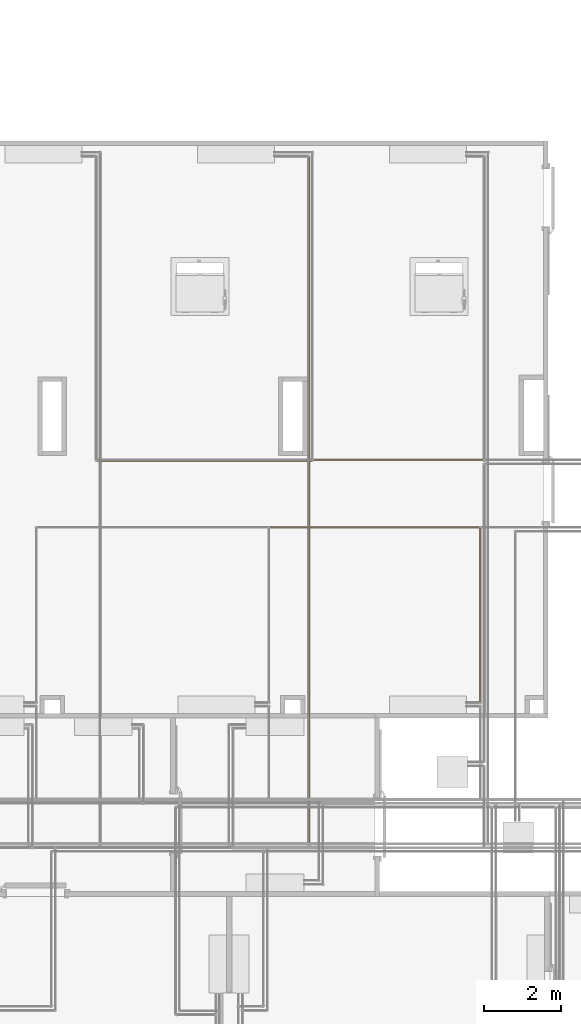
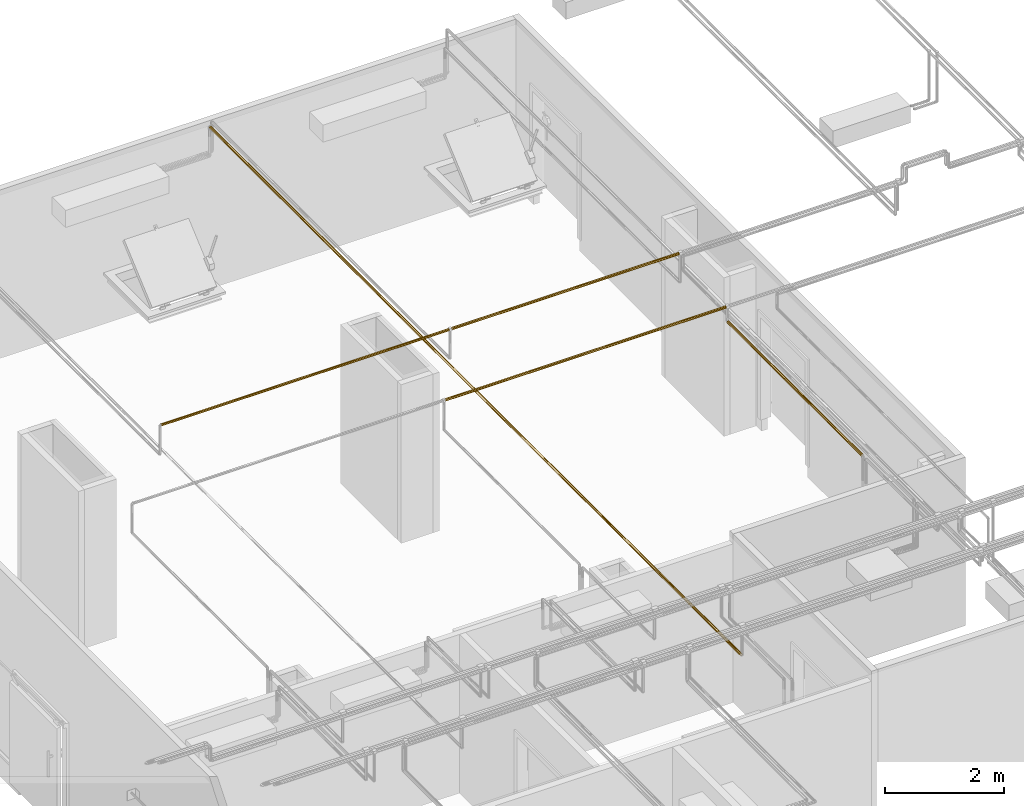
# One storey, part 117 of 652: 5 coverings.
"""IFC2X3 building model written with IfcOpenShell, lengths in millimetres."""

from ifc_helpers import new_model, entity, si_unit, converted_unit, direction, frame, origin, place, context, subcontext, project, spatial, faceted_brep, material, type_object, element, save


model = new_model("IFC2X3")

# Units and contexts
model_context = context("Model", 3, precision=0.01, world=frame((0.0, 0.0, 308426.39999999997)), true_north=direction((6.123233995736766e-17, 1.0)))
plan_context = context("Plan", 3, precision=0.01, world=frame((0.0, 0.0, 308426.39999999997)), true_north=direction((6.123233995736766e-17, 1.0)))
body_context = subcontext(model_context, "Body", "Model", "MODEL_VIEW")
ifc_project = project(units=[si_unit("LENGTHUNIT", "METRE", prefix="MILLI"), si_unit("AREAUNIT", "SQUARE_METRE"), si_unit("VOLUMEUNIT", "CUBIC_METRE"), converted_unit("PLANEANGLEUNIT", "DEGREE", entity("IfcPlaneAngleMeasure", 0.017453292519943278), si_unit("PLANEANGLEUNIT", "RADIAN"), dimensions=[0, 0, 0, 0, 0, 0, 0])], contexts=[model_context, plan_context])

# Site, building, storey
site_placement = place(None, origin())
site = spatial("IfcSite", under=ifc_project, at=site_placement, Name="Default", CompositionType="ELEMENT")
building_placement = place(site_placement, origin())
building = spatial("IfcBuilding", under=site, at=building_placement, CompositionType="ELEMENT")
storey_placement = place(building_placement, frame((0.0, 0.0, 1730.6999999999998)))
storey = spatial("IfcBuildingStorey", under=building, at=storey_placement, Name="EG_Produktion_FFB", CompositionType="ELEMENT", Elevation=1730.6999999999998)

# Coverings
ifc_material = material(Name="Dämmung - Armaflex-Schlauch")
covering_type = type_object("IfcCoveringType", Name="Rohrdämmung außen:Armaflex-Schlauch", PredefinedType="INSULATION")
covering_1_placement = place(storey_placement, frame((23668.556701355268, 69888.05472776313, 3873.0547277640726)))
element("IfcCovering", 1, at=covering_1_placement, inside=storey, type_object=covering_type, material=ifc_material, Name="Rohrdämmung außen:Armaflex-Schlauch", ObjectType="Rohrdämmung außen:Armaflex-Schlauch", PredefinedType="INSULATION", context=body_context, shape_type="Brep", body=[
    faceted_brep([(5569.4027954, 8.323873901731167, 9.744515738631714), (5569.4027954, 13.551972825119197, 6.345393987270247), (5569.4027954, 18.78007174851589, 2.946272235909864), (5569.4027954, 35.1104727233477, 2.946272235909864), (5569.4027954, 38.6393593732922, 5.923287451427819), (5569.4027954, 42.16824602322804, 8.900302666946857), (5569.4027954, 45.69713267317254, 11.877317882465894), (5569.4027954, 49.22601932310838, 14.854333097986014), (5569.4027954, 50.76064577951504, 20.899802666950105), (5569.4027954, 52.29527223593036, 26.94527223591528), (5569.4027954, 50.62815174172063, 30.97005714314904), (5569.4027954, 48.58285068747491, 35.90785068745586), (5569.4027954, 46.72663991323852, 40.38913991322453), (5569.4027954, 44.8704291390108, 44.87042913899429), (5569.4027954, 40.389139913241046, 46.726639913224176), (5569.4027954, 35.907850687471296, 48.58285068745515), (5569.4027954, 31.426561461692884, 50.439061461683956), (5569.4027954, 26.945272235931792, 52.29527223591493), (5569.4027954, 22.920487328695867, 50.628151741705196), (5569.4027954, 17.982693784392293, 48.58285068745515), (5569.4027954, 13.50140455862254, 46.726639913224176), (5569.4027954, 9.020115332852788, 44.87042913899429), (5569.4027954, 7.163904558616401, 40.38913991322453), (5569.4027954, 5.307693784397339, 35.90785068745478), (5569.4027954, 3.4514830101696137, 31.426561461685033), (5569.4027954, 1.5952722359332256, 26.94527223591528), (5569.4027954, 3.277422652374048, 22.64508311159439), (5569.4027954, 4.959573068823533, 18.344893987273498), (5569.402795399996, 6.641723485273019, 14.044704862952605), (1.5952722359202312, 31.335193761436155, 1.9782722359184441), (1.5952722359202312, 22.555350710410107, 1.9782722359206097), (1.5952722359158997, 18.800367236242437, 4.143565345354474), (1.5952722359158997, 15.045383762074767, 6.308858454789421), (1.5952722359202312, 7.535416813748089, 10.639444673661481), (1.5952722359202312, 4.5937563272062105, 18.714367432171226), (1.5952722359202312, 3.094514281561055, 22.829819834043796), (1.5952722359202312, 1.5952722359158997, 26.945272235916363), (1.5952722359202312, 3.2623927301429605, 30.97005714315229), (1.5952722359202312, 4.929513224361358, 34.99484205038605), (1.5952722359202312, 6.97481427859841, 39.93263559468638), (1.5952722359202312, 9.020115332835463, 44.87042913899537), (1.5952722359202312, 13.501404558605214, 46.72663991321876), (1.5952722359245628, 17.982693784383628, 48.58285068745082), (1.5952722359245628, 22.46398301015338, 50.439061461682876), (1.5952722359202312, 26.94527223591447, 52.295272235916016), (1.5952722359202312, 30.970057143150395, 50.628151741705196), (1.5952722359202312, 34.99484205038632, 48.96103124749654), (1.5952722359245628, 39.93263559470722, 46.91573019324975), (1.5952722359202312, 44.87042913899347, 44.87042913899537), (1.5952722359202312, 46.72663991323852, 40.389139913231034), (1.5952722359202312, 48.58285068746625, 35.9078506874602), (1.5952722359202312, 50.439061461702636, 31.42656146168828), (1.5952722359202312, 52.29527223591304, 26.945272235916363), (1.5952722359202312, 50.810236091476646, 22.868815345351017), (1.5952722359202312, 49.32519994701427, 18.792358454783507), (1.5952722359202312, 47.840163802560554, 14.715901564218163), (1.5952722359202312, 46.35512765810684, 10.639444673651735), (1.5952722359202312, 38.8451607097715, 6.308858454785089), (1.8823407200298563, 24.741973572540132, 1.691203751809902), (5568.391825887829, 22.807165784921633, 1.9353027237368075), (5568.051795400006, 26.945272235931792, 1.595272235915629), (1.9782722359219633, 26.94527223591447, 1.595272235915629), (1.8823407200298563, 29.148570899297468, 1.6912037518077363), (5568.391825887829, 31.083378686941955, 1.9353027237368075)], [[[0, 1, 2, 3, 4, 5, 6, 7, 8, 9, 10, 11, 12, 13, 14, 15, 16, 17, 18, 19, 20, 21, 22, 23, 24, 25, 26, 27, 28]], [[29, 30, 31, 32, 33, 34, 35, 36, 37, 38, 39, 40, 41, 42, 43, 44, 45, 46, 47, 48, 49, 50, 51, 52, 53, 54, 55, 56, 57]], [[34, 26, 35]], [[27, 26, 34, 28]], [[33, 1, 0]], [[2, 32, 31, 30]], [[2, 1, 32]], [[33, 32, 1]], [[25, 35, 26]], [[30, 58, 59]], [[25, 36, 35]], [[58, 60, 59]], [[60, 58, 61]], [[34, 33, 28]], [[2, 30, 59]], [[33, 0, 28]], [[62, 29, 63]], [[54, 7, 55]], [[61, 62, 60]], [[60, 62, 63]], [[6, 5, 56]], [[29, 3, 63]], [[9, 53, 52]], [[9, 8, 53]], [[57, 5, 4, 3]], [[8, 54, 53]], [[57, 3, 29]], [[5, 57, 56]], [[6, 55, 7]], [[7, 54, 8]], [[6, 56, 55]], [[50, 49, 48, 13, 12, 11, 10, 9, 52, 51]], [[13, 48, 47, 46, 45, 44, 17, 16, 15, 14]], [[42, 41, 40, 21, 20, 19, 18, 17, 44, 43]], [[21, 40, 39, 38, 37, 36, 25, 24, 23, 22]], [[60, 63, 3, 2, 59]], [[30, 29, 62, 61, 58]]]),
])
covering_2_placement = place(storey_placement, frame((29290.30724675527, 69886.46722776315, 3928.532772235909)))
element("IfcCovering", 2, at=covering_2_placement, inside=storey, type_object=covering_type, material=ifc_material, Name="Rohrdämmung außen:Armaflex-Schlauch", ObjectType="Rohrdämmung außen:Armaflex-Schlauch", PredefinedType="INSULATION", context=body_context, shape_type="Brep", body=[
    faceted_brep([(0.0, 47.5804611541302, -47.58046115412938), (0.0, 42.81853892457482, -49.552913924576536), (0.0, 38.05661669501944, -51.52536669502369), (0.0, 33.29469446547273, -53.49781946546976), (0.0, 28.532772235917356, -55.470272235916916), (0.0, 22.95564488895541, -53.16015044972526), (0.0, 19.008927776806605, -51.52536669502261), (0.0, 14.247005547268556, -49.552913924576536), (0.0, 9.485083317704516, -47.58046115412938), (0.0, 7.512630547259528, -42.818538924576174), (0.0, 5.540177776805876, -38.05661669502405), (0.0, 3.567725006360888, -33.29469446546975), (0.0, 1.5952722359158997, -28.532772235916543), (0.0, 3.905394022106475, -22.95564488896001), (0.0, 5.540177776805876, -19.008927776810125), (0.0, 7.512630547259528, -14.247005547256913), (0.0, 9.485083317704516, -9.485083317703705), (0.0, 14.247005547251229, -7.512630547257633), (0.0, 19.008927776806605, -5.540177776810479), (0.0, 23.77085000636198, -3.567725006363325), (0.0, 28.532772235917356, -1.5952722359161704), (0.0, 34.10989958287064, -3.9053940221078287), (0.0, 38.05661669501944, -5.540177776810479), (0.0, 42.81853892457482, -7.51263054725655), (0.0, 47.5804611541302, -9.485083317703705), (0.0, 49.552913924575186, -14.247005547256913), (0.0, 51.525366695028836, -19.008927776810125), (0.0, 53.497819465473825, -23.770850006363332), (0.0, 55.47027223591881, -28.532772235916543), (0.0, 53.497819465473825, -33.29469446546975), (0.0, 51.525366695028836, -38.05661669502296), (0.0, 49.552913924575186, -42.818538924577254), (4401.344003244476, 9.485083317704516, -9.485083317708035), (4401.344003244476, 7.512630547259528, -14.24700554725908), (4401.344003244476, 5.540177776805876, -19.008927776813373), (4401.344003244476, 3.567725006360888, -23.770850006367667), (4401.344003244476, 1.5952722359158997, -28.532772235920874), (4401.344003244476, 3.905394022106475, -34.109899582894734), (4401.344003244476, 6.215515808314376, -39.687026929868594), (4401.344003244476, 9.485083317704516, -47.580461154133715), (4401.344003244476, 14.247005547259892, -49.552913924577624), (4401.344003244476, 19.008927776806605, -51.52536669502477), (4401.344003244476, 23.77085000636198, -53.49781946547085), (4401.344003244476, 28.532772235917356, -55.47027223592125), (4401.344003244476, 34.109899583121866, -53.16015044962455), (4401.344003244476, 39.687026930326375, -50.85002866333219), (4401.344003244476, 47.5804611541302, -47.580461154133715), (4401.344003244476, 49.552913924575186, -42.81853892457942), (4401.344003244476, 51.525366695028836, -38.056616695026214), (4401.344003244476, 53.497819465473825, -33.29469446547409), (4401.344003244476, 55.47027223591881, -28.532772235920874), (4401.344003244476, 53.160150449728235, -22.955644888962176), (4401.344003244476, 50.850028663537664, -17.37851754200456), (4401.344003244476, 47.5804611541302, -9.485083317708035), (4401.344003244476, 42.81853892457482, -7.512630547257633), (4401.344003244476, 38.056616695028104, -5.540177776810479), (4401.344003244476, 33.29469446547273, -3.567725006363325), (4401.344003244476, 28.532772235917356, -1.595272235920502), (4401.344003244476, 22.95564488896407, -3.9053940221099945), (4401.344003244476, 17.37851754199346, -6.215515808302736)], [[[0, 1, 2, 3, 4, 5, 6, 7, 8, 9, 10, 11, 12, 13, 14, 15, 16, 17, 18, 19, 20, 21, 22, 23, 24, 25, 26, 27, 28, 29, 30, 31]], [[32, 33, 34, 35, 36, 37, 38, 39, 40, 41, 42, 43, 44, 45, 46, 47, 48, 49, 50, 51, 52, 53, 54, 55, 56, 57, 58, 59]], [[48, 47, 46, 0, 31, 30, 29, 28, 50, 49]], [[46, 45, 44, 43, 4, 3, 2, 1, 0]], [[36, 12, 11, 10, 9, 8, 39, 38, 37]], [[7, 6, 5, 4, 43, 42, 41, 40, 39, 8]], [[57, 20, 19, 18, 17, 16, 32, 59, 58]], [[15, 14, 13, 12, 36, 35, 34, 33, 32, 16]], [[50, 28, 27, 26, 25, 24, 53, 52, 51]], [[23, 22, 21, 20, 57, 56, 55, 54, 53, 24]]]),
])
covering_3_placement = place(storey_placement, frame((28160.661183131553, 68136.46722776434, 3871.4672277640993)))
element("IfcCovering", 3, at=covering_3_placement, inside=storey, type_object=covering_type, material=ifc_material, Name="Rohrdämmung außen:Armaflex-Schlauch", ObjectType="Rohrdämmung außen:Armaflex-Schlauch", PredefinedType="INSULATION", context=body_context, shape_type="Brep", body=[
    faceted_brep([(5430.990066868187, 9.485083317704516, 9.485083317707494), (5430.990066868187, 14.247005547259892, 7.51263054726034), (5430.990066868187, 19.008927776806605, 5.540177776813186), (5430.990066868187, 23.770850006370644, 3.5677250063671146), (5430.990066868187, 28.532772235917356, 1.5952722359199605), (5430.990066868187, 33.05254776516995, 3.467424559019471), (5430.990066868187, 38.056616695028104, 5.540177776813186), (5430.990066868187, 42.81853892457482, 7.51263054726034), (5430.990066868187, 47.5804611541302, 9.485083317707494), (5430.990066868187, 49.552913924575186, 14.247005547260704), (5430.990066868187, 51.525366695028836, 19.008927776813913), (5430.990066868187, 53.497819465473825, 23.770850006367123), (5430.990066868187, 55.47027223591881, 28.532772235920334), (5430.990066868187, 53.59811991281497, 33.05254776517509), (5430.990066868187, 51.525366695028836, 38.056616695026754), (5430.990066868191, 49.55291392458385, 42.81853892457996), (5430.990066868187, 47.5804611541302, 47.580461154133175), (5430.990066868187, 42.818538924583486, 49.55291392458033), (5430.990066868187, 38.056616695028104, 51.52536669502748), (5430.990066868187, 33.29469446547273, 53.497819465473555), (5430.990066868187, 28.532772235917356, 55.47027223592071), (5430.990066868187, 24.01299670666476, 53.5981199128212), (5430.990066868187, 19.008927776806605, 51.52536669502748), (5430.990066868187, 14.247005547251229, 49.55291392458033), (5430.990066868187, 9.485083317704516, 47.580461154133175), (5430.990066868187, 7.512630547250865, 42.81853892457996), (5430.990066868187, 5.540177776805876, 38.056616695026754), (5430.990066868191, 3.567725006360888, 33.29469446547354), (5430.990066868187, 1.5952722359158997, 28.532772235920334), (5430.990066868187, 3.567725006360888, 23.770850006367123), (5430.990066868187, 5.540177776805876, 19.008927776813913), (5430.990066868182, 7.512630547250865, 14.247005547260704), (0.0, 47.5804611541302, 47.58046115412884), (0.0, 49.55291392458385, 42.8185389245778), (0.0, 51.525366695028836, 38.05661669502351), (0.0, 53.497819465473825, 33.29469446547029), (0.0, 55.47027223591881, 28.532772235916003), (0.0, 53.59811991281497, 24.012996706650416), (0.0, 51.725967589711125, 19.493221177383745), (0.0, 49.653214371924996, 14.489152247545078), (0.0, 47.5804611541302, 9.485083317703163), (0.0, 42.818538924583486, 7.5126305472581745), (0.0, 38.056616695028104, 5.540177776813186), (0.0, 33.29469446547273, 3.567725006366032), (0.0, 28.532772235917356, 1.595272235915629), (0.0, 24.01299670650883, 3.4674245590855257), (0.0, 19.49322117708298, 5.339576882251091), (0.0, 14.48915224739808, 7.412330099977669), (0.0, 9.485083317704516, 9.485083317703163), (0.0, 7.512630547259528, 14.247005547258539), (0.0, 5.540177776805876, 19.008927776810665), (0.0, 3.567725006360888, 23.770850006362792), (0.0, 1.5952722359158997, 28.532772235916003), (0.0, 3.4674245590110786, 33.052547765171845), (0.0, 5.339576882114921, 37.57232329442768), (0.0, 7.412330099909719, 42.576392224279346), (0.0, 9.485083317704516, 47.58046115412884), (0.0, 14.247005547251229, 49.552913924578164), (0.0, 19.008927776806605, 51.52536669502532), (0.0, 23.770850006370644, 53.497819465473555), (0.0, 28.532772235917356, 55.470272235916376), (0.0, 33.05254776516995, 53.59811991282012), (0.0, 37.57232329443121, 51.72596758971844), (0.0, 42.576392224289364, 49.653214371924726)], [[[0, 1, 2, 3, 4, 5, 6, 7, 8, 9, 10, 11, 12, 13, 14, 15, 16, 17, 18, 19, 20, 21, 22, 23, 24, 25, 26, 27, 28, 29, 30, 31]], [[32, 33, 34, 35, 36, 37, 38, 39, 40, 41, 42, 43, 44, 45, 46, 47, 48, 49, 50, 51, 52, 53, 54, 55, 56, 57, 58, 59, 60, 61, 62, 63]], [[50, 49, 48, 0, 31, 30, 29, 28, 52, 51]], [[46, 45, 44, 4, 3, 2, 1, 0, 48, 47]], [[5, 4, 44, 43, 42, 41, 40, 8, 7, 6]], [[8, 40, 39, 38, 37, 36, 12, 11, 10, 9]], [[13, 12, 36, 35, 34, 33, 32, 16, 15, 14]], [[16, 32, 63, 62, 61, 60, 20, 19, 18, 17]], [[21, 20, 60, 59, 58, 57, 56, 24, 23, 22]], [[24, 56, 55, 54, 53, 52, 28, 27, 26, 25]]]),
])
covering_4_placement = place(storey_placement, frame((33593.05472776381, 63638.65881831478, 3573.054727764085)))
element("IfcCovering", 4, at=covering_4_placement, inside=storey, type_object=covering_type, material=ifc_material, Name="Rohrdämmung außen:Armaflex-Schlauch", ObjectType="Rohrdämmung außen:Armaflex-Schlauch", PredefinedType="INSULATION", context=body_context, shape_type="Brep", body=[
    faceted_brep([(22.555350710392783, 4501.374181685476, 51.912272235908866), (31.335193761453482, 4501.374181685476, 51.912272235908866), (38.84516070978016, 4501.374181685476, 47.581686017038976), (46.35512765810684, 4501.374181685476, 43.25109979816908), (47.840163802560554, 4501.374181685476, 39.1746429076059), (49.32519994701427, 4501.374181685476, 35.09818601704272), (50.810236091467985, 4501.374181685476, 31.02172912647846), (52.2952722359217, 4501.374181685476, 26.94527223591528), (50.23245843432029, 4501.374181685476, 21.96519917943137), (48.58285068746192, 4501.374181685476, 17.982693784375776), (46.726639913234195, 4501.374181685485, 13.501404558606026), (44.870429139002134, 4501.374181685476, 9.020115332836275), (40.38913991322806, 4501.374181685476, 7.163904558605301), (35.907850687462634, 4501.374181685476, 5.30769378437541), (31.426561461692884, 4501.374181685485, 3.4514830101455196), (26.94527223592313, 4501.374181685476, 1.595272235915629), (22.46398301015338, 4501.374181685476, 3.4514830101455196), (17.982693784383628, 4501.374181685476, 5.30769378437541), (13.501404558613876, 4501.374181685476, 7.163904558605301), (9.020115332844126, 4501.374181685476, 9.020115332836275), (7.163904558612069, 4501.374181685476, 13.501404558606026), (5.307693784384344, 4501.374181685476, 17.982693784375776), (3.451483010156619, 4501.374181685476, 22.46398301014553), (1.5952722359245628, 4501.374181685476, 26.94527223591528), (3.4503614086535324, 4501.374181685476, 32.03753283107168), (5.305450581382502, 4501.374181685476, 37.12979342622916), (7.535416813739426, 4501.374181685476, 43.25109979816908), (15.045383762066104, 4501.374181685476, 47.581686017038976), (7.535416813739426, 1.5952722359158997, 10.639444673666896), (15.04538376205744, 1.5952722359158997, 6.308858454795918), (22.555350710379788, 1.5952722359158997, 1.9782722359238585), (31.335193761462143, 1.5952722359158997, 1.9782722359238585), (38.84516070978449, 1.5952722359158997, 6.308858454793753), (46.355127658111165, 1.5952722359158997, 10.639444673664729), (48.58509388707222, 1.5952722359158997, 16.7607510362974), (50.44018306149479, 1.5952722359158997, 21.85301163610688), (52.29527223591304, 1.5952722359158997, 26.945272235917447), (50.43906146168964, 1.5952722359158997, 31.42656146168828), (48.58285068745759, 1.5952722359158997, 35.90785068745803), (46.72663991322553, 1.5952722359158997, 40.38913991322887), (44.87042913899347, 1.5952722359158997, 44.87042913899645), (40.38913991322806, 1.5952722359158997, 46.72663991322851), (35.9078506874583, 1.5952722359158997, 48.58285068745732), (31.42656146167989, 1.5952722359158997, 50.43906146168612), (26.94527223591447, 1.5952722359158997, 52.295272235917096), (22.463983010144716, 1.5952722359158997, 50.439061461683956), (17.982693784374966, 1.5952722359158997, 48.58285068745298), (13.501404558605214, 1.5952722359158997, 46.72663991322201), (9.020115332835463, 1.5952722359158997, 44.87042913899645), (7.163904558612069, 1.5952722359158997, 40.38913991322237), (5.307693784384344, 1.5952722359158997, 35.9078506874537), (3.4514830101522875, 1.5952722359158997, 31.426561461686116), (1.5952722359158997, 1.5952722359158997, 26.945272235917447), (3.450361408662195, 1.5952722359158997, 21.853011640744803), (4.565344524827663, 1.5952722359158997, 18.792358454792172), (6.050380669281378, 1.5952722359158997, 14.715901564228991), (29.14857089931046, 1.8823407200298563, 1.6912037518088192), (26.94527223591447, 1.9782722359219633, 1.595272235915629), (24.74197357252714, 1.8823407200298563, 1.691203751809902), (24.7419735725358, 4501.087113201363, 52.199340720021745), (26.94527223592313, 4500.99118168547, 52.29527223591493), (29.14857089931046, 4501.087113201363, 52.199340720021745)], [[[0, 1, 2, 3, 4, 5, 6, 7, 8, 9, 10, 11, 12, 13, 14, 15, 16, 17, 18, 19, 20, 21, 22, 23, 24, 25, 26, 27]], [[28, 29, 30, 31, 32, 33, 34, 35, 36, 37, 38, 39, 40, 41, 42, 43, 44, 45, 46, 47, 48, 49, 50, 51, 52, 53, 54, 55]], [[8, 7, 35, 9]], [[56, 14, 31]], [[36, 35, 7]], [[34, 10, 9]], [[32, 31, 13]], [[34, 9, 35]], [[15, 56, 57]], [[34, 33, 10]], [[32, 13, 12, 11]], [[14, 13, 31]], [[33, 11, 10]], [[32, 11, 33]], [[14, 56, 15]], [[30, 17, 16]], [[55, 54, 21]], [[16, 58, 30]], [[17, 30, 29]], [[55, 21, 20]], [[52, 23, 22]], [[54, 22, 21]], [[20, 28, 55]], [[29, 19, 18, 17]], [[22, 54, 53, 52]], [[58, 15, 57]], [[19, 29, 28]], [[19, 28, 20]], [[15, 58, 16]], [[26, 49, 48]], [[23, 51, 24]], [[25, 50, 49]], [[45, 44, 59]], [[48, 27, 26]], [[51, 23, 52]], [[44, 60, 59]], [[25, 24, 50]], [[0, 45, 59]], [[46, 0, 27]], [[27, 48, 47, 46]], [[0, 46, 45]], [[25, 49, 26]], [[51, 50, 24]], [[43, 42, 1]], [[2, 42, 41, 40]], [[4, 38, 5]], [[44, 61, 60]], [[7, 6, 36]], [[5, 37, 6]], [[36, 6, 37]], [[38, 4, 39]], [[39, 4, 3]], [[42, 2, 1]], [[2, 40, 3]], [[61, 43, 1]], [[43, 61, 44]], [[39, 3, 40]], [[37, 5, 38]], [[0, 59, 60, 61, 1]], [[30, 58, 57, 56, 31]]]),
])
covering_5_placement = place(storey_placement, frame((29135.013224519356, 59973.371727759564, 3273.054727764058)))
element("IfcCovering", 5, at=covering_5_placement, inside=storey, type_object=covering_type, material=ifc_material, Name="Rohrdämmung außen:Armaflex-Schlauch", ObjectType="Rohrdämmung außen:Armaflex-Schlauch", PredefinedType="INSULATION", context=body_context, shape_type="Brep", body=[
    faceted_brep([(13.501404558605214, 1.5952722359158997, 7.163904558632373), (17.982693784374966, 1.5952722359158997, 5.307693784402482), (21.880364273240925, 1.5952722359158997, 3.693225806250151), (26.94527223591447, 1.5952722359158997, 1.5952722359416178), (32.01018019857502, 1.5952722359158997, 3.69322580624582), (35.90785068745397, 1.5952722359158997, 5.307693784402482), (40.38913991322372, 1.5952722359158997, 7.163904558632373), (44.87042913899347, 1.5952722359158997, 9.020115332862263), (46.72663991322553, 1.5952722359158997, 13.501404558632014), (48.58285068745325, 1.5952722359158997, 17.982693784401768), (50.197318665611, 1.5952722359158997, 21.88036427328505), (52.29527223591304, 1.5952722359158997, 26.945272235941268), (50.40858185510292, 1.5952722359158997, 32.124278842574), (48.52189147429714, 1.5952722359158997, 37.303285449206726), (46.355127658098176, 1.5952722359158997, 43.25109979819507), (38.8451607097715, 1.5952722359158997, 47.58168601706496), (31.335193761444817, 1.5952722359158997, 51.91227223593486), (22.555350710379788, 1.5952722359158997, 51.91227223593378), (15.04538376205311, 1.5952722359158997, 47.58168601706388), (7.535416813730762, 1.5952722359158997, 43.251099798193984), (6.050380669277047, 1.5952722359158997, 39.174642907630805), (4.565344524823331, 1.5952722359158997, 35.098186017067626), (3.0803083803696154, 1.5952722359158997, 31.02172912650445), (1.5952722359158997, 1.5952722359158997, 26.945272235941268), (3.693225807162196, 1.5952722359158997, 21.88036427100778), (5.307693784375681, 1.5952722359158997, 17.982693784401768), (7.163904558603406, 1.5952722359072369, 13.501404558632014), (9.020115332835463, 1.5952722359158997, 9.020115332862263), (1.5952722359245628, 17809.04252223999, 26.94527223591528), (3.4514830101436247, 17809.04252223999, 31.426561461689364), (5.30769378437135, 17809.04252223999, 35.907850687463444), (7.163904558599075, 17809.04252223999, 40.38913991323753), (9.020115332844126, 17809.04252223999, 44.87042913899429), (13.501404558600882, 17809.04252223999, 46.726639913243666), (17.982693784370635, 17809.04252223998, 48.58285068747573), (21.880364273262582, 17809.04252223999, 50.197318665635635), (26.94527223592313, 17809.04252223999, 52.29527223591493), (32.01018019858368, 17809.04252223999, 50.19731866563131), (35.90785068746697, 17809.04252223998, 48.58285068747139), (40.38913991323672, 17809.04252223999, 46.72663991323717), (44.870429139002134, 17809.04252223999, 44.87042913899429), (46.726639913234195, 17809.04252223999, 40.389139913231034), (48.58285068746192, 17809.04252223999, 35.90785068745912), (50.197318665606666, 17809.04252223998, 32.01018019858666), (52.2952722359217, 17809.04252223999, 26.94527223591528), (50.19731866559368, 17809.04252223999, 21.880364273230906), (48.099365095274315, 17809.04252223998, 16.815456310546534), (44.870429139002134, 17809.04252223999, 9.020115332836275), (40.38913991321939, 17809.04252223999, 7.163904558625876), (35.90785068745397, 17809.04252223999, 5.30769378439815), (32.01018019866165, 17809.042522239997, 3.693225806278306), (26.94527223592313, 17809.04252223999, 1.595272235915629), (21.880364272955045, 17809.04252223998, 3.6932258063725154), (16.815456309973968, 17809.04252223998, 5.791179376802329), (9.020115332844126, 17809.04252223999, 9.020115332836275), (7.163904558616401, 17809.04252223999, 13.501404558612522), (5.307693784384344, 17809.04252223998, 17.98269378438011), (3.6932258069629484, 17809.04252223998, 21.880364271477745), (5.867517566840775, 8905.318899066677, 12.861566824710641), (2.7829016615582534, 10755.81645426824, 19.277003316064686), (1.5952722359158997, 5627.2935652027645, 26.945272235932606), (1.5952722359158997, 8905.318897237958, 26.945272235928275), (8.890856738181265, 7181.492672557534, 9.150312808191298), (18.661709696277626, 11069.65005127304, 2.986868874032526), (12.327240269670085, 9545.730590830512, 6.2345107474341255), (26.9452722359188, 5627.239526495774, 1.5952722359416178), (26.9452722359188, 11252.88378075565, 1.5952722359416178), (8.647078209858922, 12263.978307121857, 9.401082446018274), (26.9452722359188, 8905.318897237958, 1.5952722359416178), (44.740231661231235, 7181.492670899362, 8.890856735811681), (41.028977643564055, 8905.318897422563, 5.867517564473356), (34.6135411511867, 10755.816451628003, 2.7829016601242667), (50.903675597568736, 11069.650051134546, 18.661709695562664), (47.6560337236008, 9545.730588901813, 12.32724026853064), (52.29527223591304, 5627.878920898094, 26.945272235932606), (52.295272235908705, 11252.759856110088, 26.945272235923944), (52.29527223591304, 12183.35882601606, 26.945272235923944), (44.489462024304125, 12263.978305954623, 8.647078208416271), (52.295272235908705, 6557.675129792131, 26.945272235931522), (50.903675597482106, 8106.990450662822, 35.22883477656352), (48.02302690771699, 12747.8002279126, 41.02897764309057), (48.270012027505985, 5663.432247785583, 40.652130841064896), (43.22921728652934, 6278.133242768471, 46.37348969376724), (35.603427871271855, 7816.865241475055, 50.77086437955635), (41.02897764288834, 12789.654890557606, 48.02302690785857), (44.86532670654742, 11052.699184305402, 44.87553011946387), (26.94527223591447, 1.9782722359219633, 52.29527223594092), (29.1485708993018, 1.8823407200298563, 52.19934072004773), (26.9452722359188, 11253.37485837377, 52.29527223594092), (2.320170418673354, 7266.306231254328, 32.96414758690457), (18.287116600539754, 8227.273908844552, 50.770864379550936), (10.661327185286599, 7683.182600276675, 46.37348969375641), (24.74197357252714, 1.8823407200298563, 52.19934072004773), (7.132924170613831, 5482.088457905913, 42.75961269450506), (7.349185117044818, 11606.5954596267, 43.02681039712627), (4.51930140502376, 8235.482163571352, 38.764677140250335)], [[[0, 1, 2, 3, 4, 5, 6, 7, 8, 9, 10, 11, 12, 13, 14, 15, 16, 17, 18, 19, 20, 21, 22, 23, 24, 25, 26, 27]], [[28, 29, 30, 31, 32, 33, 34, 35, 36, 37, 38, 39, 40, 41, 42, 43, 44, 45, 46, 47, 48, 49, 50, 51, 52, 53, 54, 55, 56, 57]], [[58, 59, 56]], [[58, 56, 55]], [[24, 23, 60, 61]], [[61, 28, 57]], [[26, 25, 58]], [[27, 62, 0]], [[24, 59, 25]], [[53, 63, 64]], [[53, 64, 54]], [[59, 57, 56]], [[64, 63, 1]], [[52, 63, 53]], [[64, 1, 0]], [[63, 65, 2]], [[52, 66, 63]], [[52, 51, 66]], [[65, 3, 2]], [[1, 63, 2]], [[62, 26, 58]], [[67, 64, 62]], [[55, 54, 67]], [[59, 24, 61]], [[61, 57, 59]], [[25, 59, 58]], [[62, 58, 67]], [[63, 66, 68, 65]], [[55, 67, 58]], [[54, 64, 67]], [[0, 62, 64]], [[26, 62, 27]], [[4, 3, 65, 68]], [[50, 68, 66, 51]], [[69, 6, 70]], [[49, 71, 50]], [[70, 49, 48]], [[7, 69, 8]], [[70, 6, 5]], [[46, 72, 73]], [[46, 73, 47]], [[4, 71, 5]], [[71, 49, 70]], [[73, 72, 9]], [[45, 72, 46]], [[73, 9, 8]], [[72, 74, 10]], [[45, 75, 72]], [[45, 44, 76, 75]], [[74, 11, 10]], [[9, 72, 10]], [[77, 47, 73]], [[48, 47, 77]], [[71, 4, 68]], [[68, 50, 71]], [[5, 71, 70]], [[69, 70, 77]], [[72, 75, 78, 74]], [[69, 77, 73]], [[48, 77, 70]], [[8, 69, 73]], [[6, 69, 7]], [[79, 78, 75, 76]], [[80, 79, 42]], [[12, 79, 13]], [[81, 13, 79]], [[81, 82, 14]], [[83, 82, 84]], [[12, 11, 74, 78]], [[83, 16, 15]], [[13, 81, 14]], [[79, 43, 42]], [[79, 12, 78]], [[82, 83, 15]], [[80, 42, 41, 40]], [[76, 44, 43]], [[85, 81, 80]], [[15, 14, 82]], [[86, 87, 88]], [[84, 40, 39, 38]], [[83, 37, 88]], [[83, 87, 16]], [[87, 83, 88]], [[37, 83, 38]], [[37, 36, 88]], [[79, 76, 43]], [[40, 84, 85]], [[79, 80, 81]], [[83, 84, 38]], [[85, 84, 82]], [[81, 85, 82]], [[40, 85, 80]], [[88, 36, 35]], [[60, 22, 89]], [[17, 90, 18]], [[91, 19, 18]], [[90, 35, 34, 33]], [[17, 92, 90]], [[93, 94, 95]], [[92, 86, 88]], [[93, 19, 91]], [[32, 94, 33]], [[90, 91, 18]], [[94, 31, 95]], [[90, 92, 88]], [[90, 33, 91]], [[28, 61, 29]], [[89, 30, 29]], [[88, 35, 90]], [[95, 20, 93]], [[89, 21, 95]], [[94, 93, 91]], [[29, 61, 89]], [[33, 94, 91]], [[31, 30, 95]], [[20, 95, 21]], [[20, 19, 93]], [[61, 60, 89]], [[89, 95, 30]], [[94, 32, 31]], [[22, 60, 23]], [[22, 21, 89]], [[92, 17, 16, 87, 86]]]),
])

save(model, "model.ifc")
